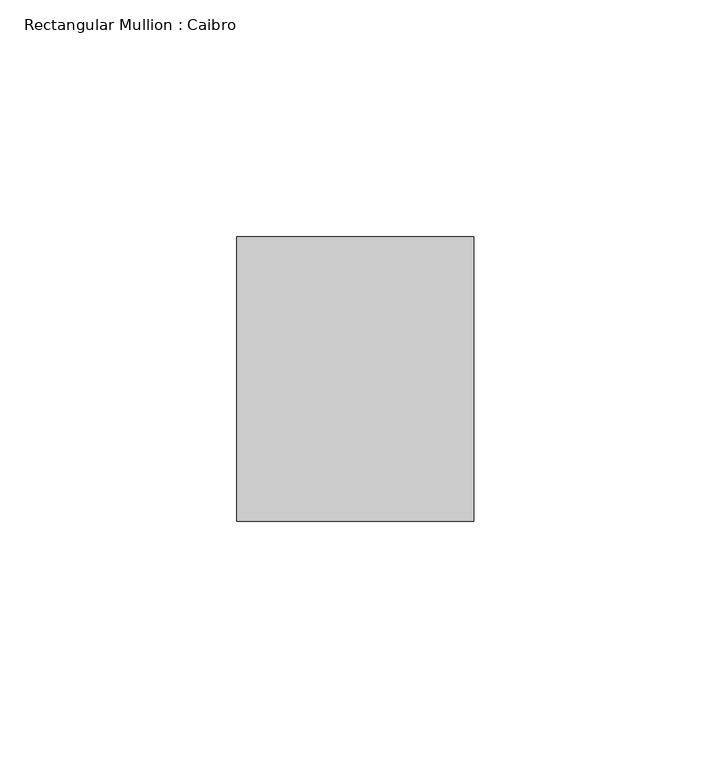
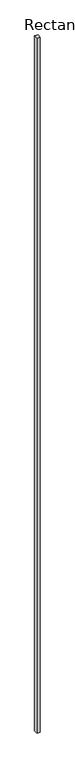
"""IFC4 building model written with IfcOpenShell, lengths in millimetres: member geometry, Rectangular Mullion : Caibro."""

from ifc_helpers import new_model, si_unit, frame, origin, place, context, project, spatial, polyline, outline, extrude, source, transform, mapped, element, save


def rectangular_mullion_caibro_ee61b842(model_context):
    return source(origin(), model_context, "Body", "SweptSolid", [
        extrude(outline(polyline([(0.0, -60.0), (-50.0, -60.0), (-50.0, 0.0), (0.0, 0.0), (0.0, -60.0)])), frame((0.0, 0.0, -11882.614899), z_axis=(0.0, 0.0, 1.0), x_axis=(1.0, 0.0, 0.0)), (0.0, 0.0, 1.0), 11882.614899),
    ])


if __name__ == "__main__":
    model = new_model("IFC4")
    model_context = context("Model", 3, world=origin())
    ifc_project = project(units=[si_unit("LENGTHUNIT", "METRE", prefix="MILLI")], contexts=[model_context])
    site = spatial("IfcSite", under=ifc_project)
    building = spatial("IfcBuilding", under=site)
    placement = place(None, origin())
    rectangular_mullion_caibro_shape = rectangular_mullion_caibro_ee61b842(model_context)
    element("IfcMember", 1, ObjectType="Rectangular Mullion : Caibro", at=placement, inside=building, context=model_context, shape_type="MappedRepresentation", body=[
        mapped(rectangular_mullion_caibro_shape, transform((0.0, 0.0, 0.0), x_axis=(1.0, 0.0, 0.0), y_axis=(0.0, 1.0, 0.0), z_axis=(0.0, 0.0, 1.0))),
    ])
    save(model, "model.ifc")
